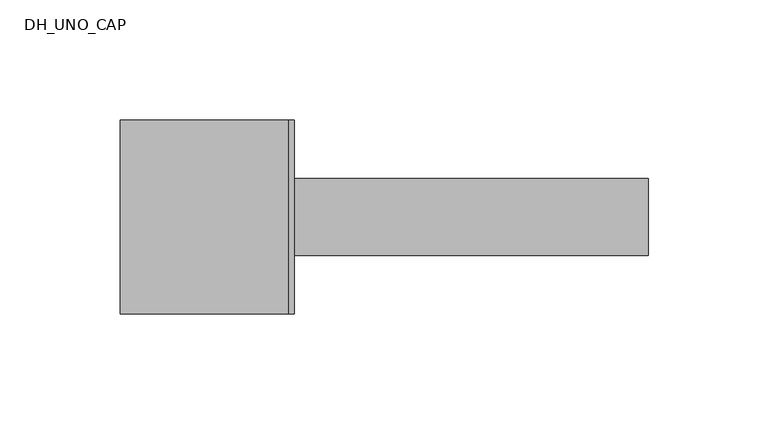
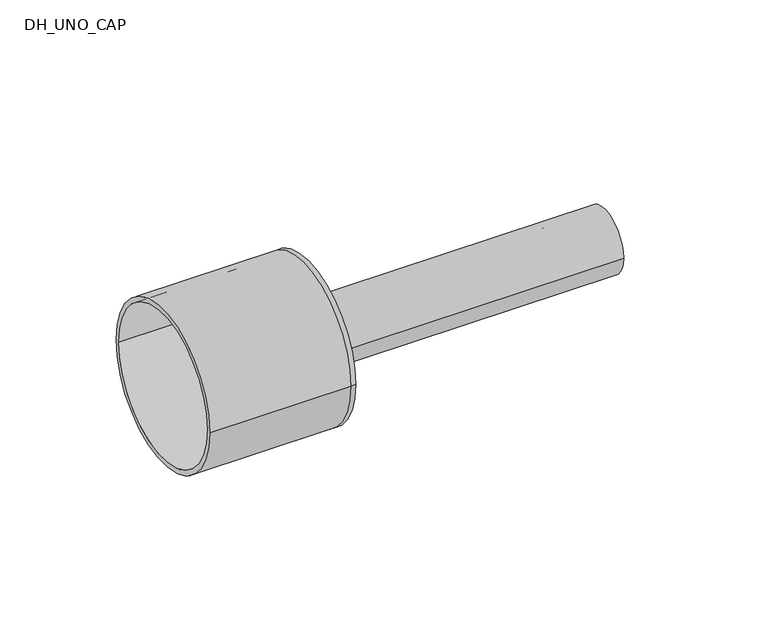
"""IFC4 building model written with IfcOpenShell, lengths in millimetres: pipe fitting geometry, DH_UNO_CAP : RAUTHERMEX UNO 11 COOL - Solid Cap."""

import ifcopenshell
import ifcopenshell.guid

model = None  # the IFC model being written
_history = None  # IfcOwnerHistory: only IFC2X3 demands one
_inside = {}  # id of a spatial element -> (the spatial element, [elements in it])
_under = {}  # id of a project, library or spatial element -> (it, [spatial elements below it])
_declared = {}  # id of a project -> (the project, [libraries it declares])
_typed = {}  # id of a type object -> (the type object, [elements of that type])
_made_of = {}  # id of a material, layer set ... -> (it, [elements and type objects made of it])


def new_model(schema):
    """Start an empty IFC model of exactly this schema.

    Asked for "IFC4X3", IfcOpenShell would pick the latest addendum, in which some entities
    have other attributes; the version numbers below select the first issue.
    IFC2X3 requires an IfcOwnerHistory on every rooted entity: one is made here for all.
    """
    global model, _history
    if schema == "IFC4X3":
        model = ifcopenshell.file(schema_version=(4, 3, 0, 0))
    else:
        model = ifcopenshell.file(schema=schema)
    _inside.clear()
    _under.clear()
    _declared.clear()
    _typed.clear()
    _made_of.clear()
    _history = None
    if model.schema == "IFC2X3":
        org = make("IfcOrganization", Name="unknown")
        user = make(
            "IfcPersonAndOrganization",
            ThePerson=make("IfcPerson", FamilyName="unknown"),
            TheOrganization=org,
        )
        app = make(
            "IfcApplication",
            ApplicationDeveloper=org,
            Version="unknown",
            ApplicationFullName="unknown",
            ApplicationIdentifier="unknown",
        )
        _history = make(
            "IfcOwnerHistory",
            OwningUser=user,
            OwningApplication=app,
            ChangeAction="ADDED",
            CreationDate=0,
        )
    return model


def make(cls, **values):
    """One entity of the class cls with the attributes given. An attribute that is None is left unset."""
    return model.create_entity(
        cls, **{name: value for name, value in values.items() if value is not None}
    )


def rooted(cls, **values):
    """An entity with a GlobalId (a new one), such as an element, a storey or a relation."""
    return make(cls, GlobalId=ifcopenshell.guid.new(), OwnerHistory=_history, **values)


def si_unit(unit_type, name, prefix=None):
    """IfcSIUnit, for example si_unit("LENGTHUNIT", "METRE", prefix="MILLI")."""
    return make("IfcSIUnit", UnitType=unit_type, Prefix=prefix, Name=name)


def assignment(units):
    """IfcUnitAssignment: the units of a project."""
    return None if units is None else make("IfcUnitAssignment", Units=units)


def point(xyz):
    """IfcCartesianPoint."""
    return None if xyz is None else make("IfcCartesianPoint", Coordinates=xyz)


def direction(xyz):
    """IfcDirection."""
    return None if xyz is None else make("IfcDirection", DirectionRatios=xyz)


def frame(location, z_axis=None, x_axis=None):
    """IfcAxis2Placement3D, a coordinate frame: its origin and axes. An axis left out is left unset."""
    return make(
        "IfcAxis2Placement3D",
        Location=point(location),
        Axis=direction(z_axis),
        RefDirection=direction(x_axis),
    )


def frame_2d(location, x_axis=None):
    """IfcAxis2Placement2D, a coordinate frame in the plane: its origin and x axis."""
    return make(
        "IfcAxis2Placement2D", Location=point(location), RefDirection=direction(x_axis)
    )


def origin():
    """The frame at (0, 0, 0) with its axes left unset."""
    return frame((0.0, 0.0, 0.0))


def origin_2d():
    """The frame at (0, 0) in the plane with its x axis left unset."""
    return frame_2d((0.0, 0.0))


def place(relative_to, where):
    """IfcLocalPlacement: puts the frame where relative to a parent placement (None: the world)."""
    return make(
        "IfcLocalPlacement", PlacementRelTo=relative_to, RelativePlacement=where
    )


def context(
    kind, dimensions, precision=None, world=None, true_north=None, identifier=None
):
    """IfcGeometricRepresentationContext, for example the 3D "Model" context."""
    return make(
        "IfcGeometricRepresentationContext",
        ContextIdentifier=identifier,
        ContextType=kind,
        CoordinateSpaceDimension=dimensions,
        Precision=precision,
        WorldCoordinateSystem=world,
        TrueNorth=true_north,
    )


def project(units=None, contexts=None):
    """IfcProject with its units and contexts."""
    return rooted(
        "IfcProject",
        Name="project",
        RepresentationContexts=contexts,
        UnitsInContext=assignment(units),
    )


def spatial(cls, under=None, at=None, **own):
    """A site, building, storey or space (cls), placed at a placement, below another one or the project."""
    s = rooted(cls, ObjectPlacement=at, **own)
    if under is not None:
        _under.setdefault(under.id(), (under, []))[1].append(s)
    return s


def polyline(points):
    """IfcPolyline through the points."""
    return make("IfcPolyline", Points=[point(p) for p in points])


def circle_curve(where, radius):
    """IfcCircle in the frame where."""
    return make("IfcCircle", Position=where, Radius=radius)


def trimmed(basis, trim1, trim2, sense, master):
    """IfcTrimmedCurve: the piece of a basis curve between two trims."""
    return make(
        "IfcTrimmedCurve",
        BasisCurve=basis,
        Trim1=trim1,
        Trim2=trim2,
        SenseAgreement=sense,
        MasterRepresentation=master,
    )


def segment(curve, same_sense, transition):
    """IfcCompositeCurveSegment."""
    return make(
        "IfcCompositeCurveSegment",
        Transition=transition,
        SameSense=same_sense,
        ParentCurve=curve,
    )


def composite_curve(segments, self_intersect=None):
    """IfcCompositeCurve: segments joined end to end."""
    return make("IfcCompositeCurve", Segments=segments, SelfIntersect=self_intersect)


def outline(outer, holes=None, kind="AREA"):
    """IfcArbitraryClosedProfileDef: a profile drawn as a closed curve; with holes, ...WithVoids."""
    if holes is None:
        return make("IfcArbitraryClosedProfileDef", ProfileType=kind, OuterCurve=outer)
    return make(
        "IfcArbitraryProfileDefWithVoids",
        ProfileType=kind,
        OuterCurve=outer,
        InnerCurves=holes,
    )


def extrude(swept, where, along, depth):
    """IfcExtrudedAreaSolid: the profile swept, set in the frame where, extruded along a direction by depth."""
    return make(
        "IfcExtrudedAreaSolid",
        SweptArea=swept,
        Position=where,
        ExtrudedDirection=direction(along),
        Depth=depth,
    )


def shape(context_of_items, identifier, shape_type, items):
    """IfcShapeRepresentation: the items that make up one representation, for example the "Body"."""
    return make(
        "IfcShapeRepresentation",
        ContextOfItems=context_of_items,
        RepresentationIdentifier=identifier,
        RepresentationType=shape_type,
        Items=items,
    )


def source(mapping_origin, context_of_items, identifier, shape_type, items):
    """IfcRepresentationMap: a shape defined once, which mapped items show again and again."""
    return make(
        "IfcRepresentationMap",
        MappingOrigin=mapping_origin,
        MappedRepresentation=shape(context_of_items, identifier, shape_type, items),
    )


def transform(
    local_origin,
    x_axis=None,
    y_axis=None,
    z_axis=None,
    scale=None,
    scale2=None,
    scale3=None,
    uniform=True,
):
    """IfcCartesianTransformationOperator3D, or its non-uniform kind. x_axis, y_axis, z_axis: its Axis1, 2, 3."""
    if uniform:
        return make(
            "IfcCartesianTransformationOperator3D",
            Axis1=direction(x_axis),
            Axis2=direction(y_axis),
            LocalOrigin=point(local_origin),
            Scale=scale,
            Axis3=direction(z_axis),
        )
    return make(
        "IfcCartesianTransformationOperator3DnonUniform",
        Axis1=direction(x_axis),
        Axis2=direction(y_axis),
        LocalOrigin=point(local_origin),
        Scale=scale,
        Axis3=direction(z_axis),
        Scale2=scale2,
        Scale3=scale3,
    )


def mapped(mapping_source, mapping_target):
    """IfcMappedItem: shows the shape of a source again, moved by a transform."""
    return make(
        "IfcMappedItem", MappingSource=mapping_source, MappingTarget=mapping_target
    )


def made_of(thing, what):
    """Note that an element or type object is made of a material, layer set ...; save() writes the relation."""
    if what is not None:
        _made_of.setdefault(what.id(), (what, []))[1].append(thing)
    return thing


def element(
    cls,
    number,
    at=None,
    inside=None,
    cuts=None,
    type_object=None,
    material=None,
    context=None,
    identifier="Body",
    shape_type=None,
    held_by="IfcProductDefinitionShape",
    body=None,
    shapes=None,
    **own,
):
    """One element of the class cls, such as IfcWall. Its Tag is "e" and its number.

    at: its placement. inside: the storey or other place that contains it. cuts: it is an
    opening in that element (IfcRelVoidsElement). A single representation is given by context,
    identifier, shape_type and body (its items); several are given by shapes. held_by: the class
    of the entity that holds the representations. save() writes the other relations.
    """
    e = rooted(cls, Tag="e%d" % number, ObjectPlacement=at, **own)
    if body is not None:
        shapes = [shape(context, identifier, shape_type, body)]
    if shapes is not None:
        e.Representation = make(held_by, Representations=shapes)
    if inside is not None:
        _inside.setdefault(inside.id(), (inside, []))[1].append(e)
    if cuts is not None:
        rooted(
            "IfcRelVoidsElement", RelatingBuildingElement=cuts, RelatedOpeningElement=e
        )
    if type_object is not None:
        _typed.setdefault(type_object.id(), (type_object, []))[1].append(e)
    return made_of(e, material)


def aggregate(whole, parts):
    """IfcRelAggregates: a whole, such as a stair, and the parts it consists of."""
    return rooted("IfcRelAggregates", RelatingObject=whole, RelatedObjects=parts)


def save(model, path):
    """Write the relations noted so far, then the file.

    IfcRelAggregates (storeys below a building ...), IfcRelContainedInSpatialStructure (elements
    in a storey), IfcRelDefinesByType, IfcRelAssociatesMaterial and IfcRelDeclares: one each for
    every whole, place, type object, material and project.
    """
    for whole, parts in _under.values():
        aggregate(whole, parts)
    for where, things in _inside.values():
        rooted(
            "IfcRelContainedInSpatialStructure",
            RelatedElements=things,
            RelatingStructure=where,
        )
    for kind, things in _typed.values():
        rooted("IfcRelDefinesByType", RelatedObjects=things, RelatingType=kind)
    for what, things in _made_of.values():
        rooted("IfcRelAssociatesMaterial", RelatedObjects=things, RelatingMaterial=what)
    for by, libraries in _declared.values():
        rooted("IfcRelDeclares", RelatingContext=by, RelatedDefinitions=libraries)
    model.write(path)


def plane_surface(at):
    """IfcPlane: the flat surface through the origin of the frame at, square to its z axis."""
    return make("IfcPlane", Position=at)


def cylinder_surface(at, radius):
    """IfcCylindricalSurface: all points at the distance radius from the z axis of the frame at."""
    return make("IfcCylindricalSurface", Position=at, Radius=radius)


def revolved_surface(curve, axis_point, axis_direction):
    """IfcSurfaceOfRevolution: the curve turned about the line through axis_point along axis_direction."""
    return make(
        "IfcSurfaceOfRevolution",
        SweptCurve=make("IfcArbitraryOpenProfileDef", ProfileType="CURVE", Curve=curve),
        AxisPosition=make("IfcAxis1Placement", Location=point(axis_point), Axis=direction(axis_direction)),
    )


def advanced_brep(points, edges, surfaces, faces):
    """IfcAdvancedBrep: a solid bounded by faces that lie on surfaces and meet in shared edges.

    An edge is (start, end): straight between two places in points (the first is 0);
    or (start, end, curve); or (start, end, curve, False) where it runs against its curve.
    A face is (place in surfaces, loops), or (place, loops, False) where it looks against
    its surface's normal. A loop lists edges by number (the first is 1), with a minus sign
    where the edge is run from its end to its start. The first loop is the outer one.
    """
    corners = [point(p) for p in points]
    vertices = [make("IfcVertexPoint", VertexGeometry=c) for c in corners]
    made = []
    for start, end, *more in edges:
        made.append(
            make(
                "IfcEdgeCurve",
                EdgeStart=vertices[start],
                EdgeEnd=vertices[end],
                EdgeGeometry=more[0] if more else make("IfcPolyline", Points=[corners[start], corners[end]]),
                SameSense=more[1] if len(more) > 1 else True,
            )
        )
    hull = []
    for where, loops, *sense in faces:
        bounds = []
        for j, loop in enumerate(loops):
            ring = [make("IfcOrientedEdge", EdgeElement=made[abs(k) - 1], Orientation=k > 0) for k in loop]
            bounds.append(
                make(
                    "IfcFaceOuterBound" if j == 0 else "IfcFaceBound",
                    Bound=make("IfcEdgeLoop", EdgeList=ring),
                    Orientation=True,
                )
            )
        hull.append(make("IfcAdvancedFace", Bounds=bounds, FaceSurface=surfaces[where], SameSense=sense[0] if sense else True))
    return make("IfcAdvancedBrep", Outer=make("IfcClosedShell", CfsFaces=hull))


def dh_uno_cap_461313df(model_context):
    return source(origin(), model_context, "Body", "SolidModel", [
        extrude(outline(composite_curve([segment(trimmed(circle_curve(origin_2d(), 16.0), [point((-16.0, 0.0))], [point((16.0, 0.0))], False, "CARTESIAN"), True, "CONTINUOUS"), segment(trimmed(circle_curve(origin_2d(), 16.0), [point((16.0, 0.0))], [point((-16.0, 0.0))], False, "CARTESIAN"), True, "CONTINUOUS")], self_intersect=False), holes=[composite_curve([segment(trimmed(circle_curve(origin_2d(), 13.1), [point((-13.1, 0.0))], [point((13.1, 0.0))], True, "CARTESIAN"), True, "CONTINUOUS"), segment(trimmed(circle_curve(origin_2d(), 13.1), [point((13.1, 0.0))], [point((-13.1, 0.0))], True, "CARTESIAN"), True, "CONTINUOUS")], self_intersect=False)]), frame((0.0, 0.0, 0.0), z_axis=(1.0, 0.0, 0.0), x_axis=(0.0, 1.0, 0.0)), (0.0, 0.0, 1.0), 150.0),
        advanced_brep(
        [(-70.0, -40.5, 0.0), (-70.0, 40.5, 0.0), (-70.0, -38.0, 0.0), (-70.0, 38.0, 0.0), (0.0, -38.0, 0.0), (0.0, 38.0, 0.0), (0.0, -40.5, 0.0), (0.0, 40.5, 0.0), (0.0, 16.0, 0.0), (0.0, -16.0, 0.0), (2.5, -40.5, 0.0), (2.5, 40.5, 0.0), (2.5, -16.0, 0.0), (2.5, 16.0, 0.0)],
        [
            (0, 1, circle_curve(frame((-70.0, 0.0, 0.0), z_axis=(-1.0, 0.0, 0.0), x_axis=(0.0, 1.0, 0.0)), 40.5)),
            (1, 0, circle_curve(frame((-70.0, 0.0, 0.0), z_axis=(-1.0, 0.0, 0.0), x_axis=(0.0, 1.0, 0.0)), 40.5)),
            (2, 3, circle_curve(frame((-70.0, 0.0, 0.0), z_axis=(1.0, 0.0, 0.0), x_axis=(0.0, 1.0, 0.0)), 38.0)),
            (3, 2, circle_curve(frame((-70.0, 0.0, 0.0), z_axis=(1.0, 0.0, 0.0), x_axis=(0.0, 1.0, 0.0)), 38.0)),
            (2, 4),
            (4, 5, circle_curve(frame((0.0, 0.0, 0.0), z_axis=(1.0, 0.0, 0.0), x_axis=(0.0, 1.0, 0.0)), 38.0)),
            (5, 3),
            (5, 4, circle_curve(frame((0.0, 0.0, 0.0), z_axis=(1.0, 0.0, 0.0), x_axis=(0.0, 1.0, 0.0)), 38.0)),
            (0, 6),
            (6, 7, circle_curve(frame((0.0, 0.0, 0.0), z_axis=(-1.0, 0.0, 0.0), x_axis=(0.0, 1.0, 0.0)), 40.5)),
            (7, 1),
            (7, 6, circle_curve(frame((0.0, 0.0, 0.0), z_axis=(-1.0, 0.0, 0.0), x_axis=(0.0, 1.0, 0.0)), 40.5)),
            (8, 9, circle_curve(frame((0.0, 0.0, 0.0), z_axis=(1.0, 0.0, 0.0), x_axis=(0.0, 1.0, 0.0)), 16.0)),
            (9, 8, circle_curve(frame((0.0, 0.0, 0.0), z_axis=(1.0, 0.0, 0.0), x_axis=(0.0, 1.0, 0.0)), 16.0)),
            (10, 11, circle_curve(frame((2.5, 0.0, 0.0), z_axis=(1.0, 0.0, 0.0), x_axis=(0.0, 1.0, 0.0)), 40.5)),
            (11, 10, circle_curve(frame((2.5, 0.0, 0.0), z_axis=(1.0, 0.0, 0.0), x_axis=(0.0, 1.0, 0.0)), 40.5)),
            (12, 13, circle_curve(frame((2.5, 0.0, 0.0), z_axis=(-1.0, 0.0, 0.0), x_axis=(0.0, 1.0, 0.0)), 16.0)),
            (13, 12, circle_curve(frame((2.5, 0.0, 0.0), z_axis=(-1.0, 0.0, 0.0), x_axis=(0.0, 1.0, 0.0)), 16.0)),
            (11, 7),
            (6, 10),
            (8, 13),
            (12, 9),
        ],
        [
            plane_surface(frame((-70.0, 0.0, 0.0), z_axis=(-1.0, 0.0, 0.0), x_axis=(0.0, 0.0, 1.0))),
            revolved_surface(polyline([(0.0, 38.0, 0.0), (-70.0, 38.0, 0.0)]), (-70.0, 0.0, 0.0), (1.0, 0.0, 0.0)),
            cylinder_surface(frame((-70.0, 0.0, 0.0), z_axis=(-1.0, 0.0, 0.0), x_axis=(0.0, 1.0, 0.0)), 40.5),
            plane_surface(frame((0.0, 0.0, 0.0), z_axis=(-1.0, 0.0, 0.0), x_axis=(0.0, 0.0, 1.0))),
            plane_surface(frame((2.5, 0.0, 0.0), z_axis=(1.0, 0.0, 0.0), x_axis=(0.0, 0.0, 1.0))),
            cylinder_surface(frame((0.0, 0.0, 0.0), z_axis=(-1.0, 0.0, 0.0), x_axis=(0.0, 1.0, 0.0)), 40.5),
            revolved_surface(polyline([(0.0, 16.0, 0.0), (2.5, 16.0, 0.0)]), (0.0, 0.0, 0.0), (-1.0, 0.0, 0.0)),
        ],
        [
            (0, [[1, 2], [3, 4]]),
            (1, [[-3, 5, 6, 7]]),
            (1, [[-4, -7, 8, -5]]),
            (2, [[-1, 9, 10, 11]]),
            (2, [[-2, -11, 12, -9]]),
            (3, [[-6, -8], [13, 14]]),
            (4, [[15, 16], [17, 18]]),
            (5, [[-16, 19, -10, 20]]),
            (5, [[-15, -20, -12, -19]]),
            (6, [[21, -17, 22, -13]]),
            (6, [[-21, -14, -22, -18]]),
        ],
    ),
    ])


if __name__ == "__main__":
    model = new_model("IFC4")
    model_context = context("Model", 3, world=origin())
    ifc_project = project(units=[si_unit("LENGTHUNIT", "METRE", prefix="MILLI")], contexts=[model_context])
    site = spatial("IfcSite", under=ifc_project)
    building = spatial("IfcBuilding", under=site)
    placement = place(None, origin())
    dh_uno_cap_shape = dh_uno_cap_461313df(model_context)
    element("IfcPipeFitting", 1, ObjectType="DH_UNO_CAP : RAUTHERMEX UNO 11 COOL - Solid Cap", at=placement, inside=building, context=model_context, shape_type="MappedRepresentation", body=[
        mapped(dh_uno_cap_shape, transform((0.0, 0.0, 0.0), x_axis=(1.0, 0.0, 0.0), y_axis=(0.0, 1.0, 0.0), z_axis=(0.0, 0.0, 1.0))),
    ])
    save(model, "model.ifc")
